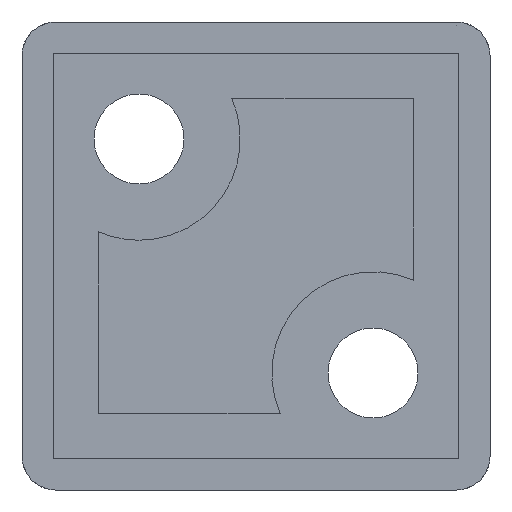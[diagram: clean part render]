
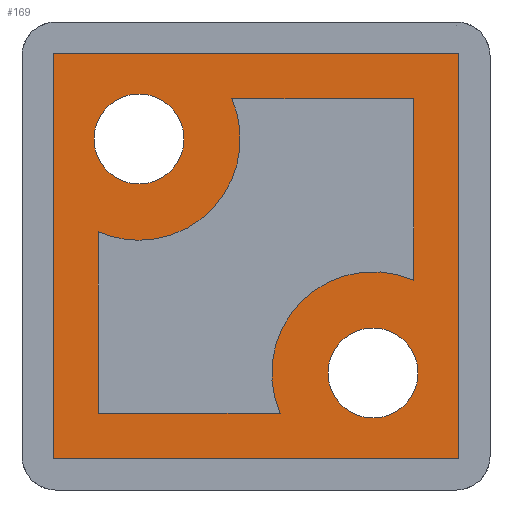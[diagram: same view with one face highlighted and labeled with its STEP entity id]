
A CAD part, front view. The second image highlights one B-rep face of the part: STEP entity #169.
In plain terms, the highlighted planar face has unit normal (0, -1, 0).
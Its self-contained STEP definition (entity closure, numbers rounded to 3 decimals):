
#1 = EDGE_CURVE ( 'NONE', #38, #571, #34, .T. ) ;
#7 = VECTOR ( 'NONE', #140, 1000. ) ;
#9 = EDGE_CURVE ( 'NONE', #414, #1134, #280, .T. ) ;
#15 = CIRCLE ( 'NONE', #915, 4.5 ) ;
#18 = CARTESIAN_POINT ( 'NONE',  ( -1.076, 0., 7. ) ) ;
#27 = CARTESIAN_POINT ( 'NONE',  ( 1.076, 0., -7. ) ) ;
#32 = VECTOR ( 'NONE', #43, 1000. ) ;
#34 = CIRCLE ( 'NONE', #228, 4.5 ) ;
#38 = VERTEX_POINT ( 'NONE', #18 ) ;
#40 = DIRECTION ( 'NONE',  ( 0., 0., -1. ) ) ;
#43 = DIRECTION ( 'NONE',  ( 0., 0., -1. ) ) ;
#46 = CARTESIAN_POINT ( 'NONE',  ( -7., 0., 1.076 ) ) ;
#52 = ORIENTED_EDGE ( 'NONE', *, *, #481, .T. ) ;
#62 = CARTESIAN_POINT ( 'NONE',  ( -5.2, 0., 0.7 ) ) ;
#67 = EDGE_LOOP ( 'NONE', ( #1154, #754 ) ) ;
#68 = CARTESIAN_POINT ( 'NONE',  ( 5.2, 0., -5.2 ) ) ;
#69 = ORIENTED_EDGE ( 'NONE', *, *, #1, .F. ) ;
#82 = AXIS2_PLACEMENT_3D ( 'NONE', #1205, #471, #1037 ) ;
#84 = DIRECTION ( 'NONE',  ( 1., 0., 0. ) ) ;
#90 = EDGE_CURVE ( 'NONE', #610, #708, #658, .T. ) ;
#91 = FACE_OUTER_BOUND ( 'NONE', #773, .T. ) ;
#97 = VERTEX_POINT ( 'NONE', #486 ) ;
#100 = CARTESIAN_POINT ( 'NONE',  ( 7., 0., -1.076 ) ) ;
#104 = ORIENTED_EDGE ( 'NONE', *, *, #927, .F. ) ;
#112 = AXIS2_PLACEMENT_3D ( 'NONE', #151, #831, #240 ) ;
#116 = FACE_BOUND ( 'NONE', #67, .T. ) ;
#140 = DIRECTION ( 'NONE',  ( 1., 0., 0. ) ) ;
#151 = CARTESIAN_POINT ( 'NONE',  ( -5.2, 0., 5.2 ) ) ;
#165 = EDGE_CURVE ( 'NONE', #706, #414, #862, .T. ) ;
#169 = ADVANCED_FACE ( 'NONE', ( #1063, #116, #638, #91 ), #276, .F. ) ;
#198 = DIRECTION ( 'NONE',  ( 0., 0., 1. ) ) ;
#218 = DIRECTION ( 'NONE',  ( 0., 1., 0. ) ) ;
#228 = AXIS2_PLACEMENT_3D ( 'NONE', #551, #748, #247 ) ;
#233 = CARTESIAN_POINT ( 'NONE',  ( 7., 0., 7. ) ) ;
#236 = VERTEX_POINT ( 'NONE', #1030 ) ;
#240 = DIRECTION ( 'NONE',  ( 0., 0., 1. ) ) ;
#247 = DIRECTION ( 'NONE',  ( 0., 0., -1. ) ) ;
#254 = DIRECTION ( 'NONE',  ( 0., 0., -1. ) ) ;
#269 = VECTOR ( 'NONE', #932, 1000. ) ;
#276 = PLANE ( 'NONE',  #82 ) ;
#279 = LINE ( 'NONE', #46, #32 ) ;
#280 = LINE ( 'NONE', #468, #7 ) ;
#296 = CARTESIAN_POINT ( 'NONE',  ( 5.2, 0., -5.2 ) ) ;
#309 = CARTESIAN_POINT ( 'NONE',  ( -5.2, 0., 5.2 ) ) ;
#310 = EDGE_CURVE ( 'NONE', #708, #38, #906, .T. ) ;
#317 = ORIENTED_EDGE ( 'NONE', *, *, #310, .F. ) ;
#325 = DIRECTION ( 'NONE',  ( 0., 1., 0. ) ) ;
#338 = VECTOR ( 'NONE', #1040, 1000. ) ;
#341 = DIRECTION ( 'NONE',  ( 0., 1., 0. ) ) ;
#348 = VERTEX_POINT ( 'NONE', #818 ) ;
#361 = CARTESIAN_POINT ( 'NONE',  ( -7., 0., -7. ) ) ;
#376 = CARTESIAN_POINT ( 'NONE',  ( -9., 0., 10.4 ) ) ;
#388 = EDGE_CURVE ( 'NONE', #706, #1100, #1106, .T. ) ;
#392 = AXIS2_PLACEMENT_3D ( 'NONE', #68, #651, #254 ) ;
#403 = DIRECTION ( 'NONE',  ( 0., 1., 0. ) ) ;
#408 = EDGE_CURVE ( 'NONE', #1139, #610, #1051, .T. ) ;
#411 = ORIENTED_EDGE ( 'NONE', *, *, #408, .F. ) ;
#414 = VERTEX_POINT ( 'NONE', #849 ) ;
#416 = DIRECTION ( 'NONE',  ( 0., 0., 1. ) ) ;
#425 = DIRECTION ( 'NONE',  ( 0., 0., 1. ) ) ;
#460 = VERTEX_POINT ( 'NONE', #731 ) ;
#468 = CARTESIAN_POINT ( 'NONE',  ( -10.4, 0., -9. ) ) ;
#470 = CIRCLE ( 'NONE', #769, 2. ) ;
#471 = DIRECTION ( 'NONE',  ( 0., 1., 0. ) ) ;
#481 = EDGE_CURVE ( 'NONE', #236, #97, #494, .T. ) ;
#486 = CARTESIAN_POINT ( 'NONE',  ( 5.2, 0., -3.2 ) ) ;
#494 = CIRCLE ( 'NONE', #727, 2. ) ;
#520 = EDGE_CURVE ( 'NONE', #571, #460, #15, .T. ) ;
#548 = EDGE_CURVE ( 'NONE', #1100, #1134, #970, .T. ) ;
#549 = VERTEX_POINT ( 'NONE', #995 ) ;
#551 = CARTESIAN_POINT ( 'NONE',  ( -5.2, 0., 5.2 ) ) ;
#571 = VERTEX_POINT ( 'NONE', #62 ) ;
#584 = ORIENTED_EDGE ( 'NONE', *, *, #520, .F. ) ;
#610 = VERTEX_POINT ( 'NONE', #1010 ) ;
#618 = EDGE_CURVE ( 'NONE', #348, #1165, #1054, .T. ) ;
#624 = DIRECTION ( 'NONE',  ( 0., 0., -1. ) ) ;
#638 = FACE_BOUND ( 'NONE', #701, .T. ) ;
#651 = DIRECTION ( 'NONE',  ( 0., 1., 0. ) ) ;
#655 = CARTESIAN_POINT ( 'NONE',  ( -9., 0., 9. ) ) ;
#658 = LINE ( 'NONE', #100, #939 ) ;
#671 = EDGE_CURVE ( 'NONE', #549, #1139, #1006, .T. ) ;
#683 = ORIENTED_EDGE ( 'NONE', *, *, #165, .T. ) ;
#701 = EDGE_LOOP ( 'NONE', ( #899, #52 ) ) ;
#706 = VERTEX_POINT ( 'NONE', #655 ) ;
#708 = VERTEX_POINT ( 'NONE', #233 ) ;
#726 = ORIENTED_EDGE ( 'NONE', *, *, #548, .F. ) ;
#727 = AXIS2_PLACEMENT_3D ( 'NONE', #1081, #325, #1000 ) ;
#731 = CARTESIAN_POINT ( 'NONE',  ( -7., 0., 1.076 ) ) ;
#739 = EDGE_CURVE ( 'NONE', #1165, #348, #470, .T. ) ;
#748 = DIRECTION ( 'NONE',  ( 0., 1., 0. ) ) ;
#753 = CARTESIAN_POINT ( 'NONE',  ( -10.4, 0., 9. ) ) ;
#754 = ORIENTED_EDGE ( 'NONE', *, *, #739, .T. ) ;
#769 = AXIS2_PLACEMENT_3D ( 'NONE', #309, #403, #416 ) ;
#773 = EDGE_LOOP ( 'NONE', ( #683, #900, #726, #1121 ) ) ;
#784 = AXIS2_PLACEMENT_3D ( 'NONE', #296, #341, #425 ) ;
#808 = CARTESIAN_POINT ( 'NONE',  ( 9., 0., 9. ) ) ;
#818 = CARTESIAN_POINT ( 'NONE',  ( -5.2, 0., 7.2 ) ) ;
#822 = CARTESIAN_POINT ( 'NONE',  ( -5.2, 0., 5.2 ) ) ;
#823 = VECTOR ( 'NONE', #84, 1000. ) ;
#831 = DIRECTION ( 'NONE',  ( 0., 1., 0. ) ) ;
#849 = CARTESIAN_POINT ( 'NONE',  ( -9., 0., -9. ) ) ;
#862 = LINE ( 'NONE', #376, #338 ) ;
#865 = CARTESIAN_POINT ( 'NONE',  ( -5.2, 0., 3.2 ) ) ;
#882 = VECTOR ( 'NONE', #40, 1000. ) ;
#894 = CARTESIAN_POINT ( 'NONE',  ( 9., 0., -9. ) ) ;
#899 = ORIENTED_EDGE ( 'NONE', *, *, #935, .T. ) ;
#900 = ORIENTED_EDGE ( 'NONE', *, *, #9, .T. ) ;
#906 = LINE ( 'NONE', #1064, #1128 ) ;
#915 = AXIS2_PLACEMENT_3D ( 'NONE', #822, #218, #624 ) ;
#927 = EDGE_CURVE ( 'NONE', #460, #549, #279, .T. ) ;
#932 = DIRECTION ( 'NONE',  ( 1., 0., 0. ) ) ;
#935 = EDGE_CURVE ( 'NONE', #97, #236, #1067, .T. ) ;
#939 = VECTOR ( 'NONE', #198, 1000. ) ;
#968 = ORIENTED_EDGE ( 'NONE', *, *, #90, .F. ) ;
#970 = LINE ( 'NONE', #1073, #882 ) ;
#980 = DIRECTION ( 'NONE',  ( -1., 0., 0. ) ) ;
#995 = CARTESIAN_POINT ( 'NONE',  ( -7., 0., -7. ) ) ;
#1000 = DIRECTION ( 'NONE',  ( 0., 0., 1. ) ) ;
#1006 = LINE ( 'NONE', #361, #269 ) ;
#1010 = CARTESIAN_POINT ( 'NONE',  ( 7., 0., -1.076 ) ) ;
#1030 = CARTESIAN_POINT ( 'NONE',  ( 5.2, 0., -7.2 ) ) ;
#1037 = DIRECTION ( 'NONE',  ( 0., 0., 1. ) ) ;
#1040 = DIRECTION ( 'NONE',  ( 0., 0., -1. ) ) ;
#1051 = CIRCLE ( 'NONE', #392, 4.5 ) ;
#1054 = CIRCLE ( 'NONE', #112, 2. ) ;
#1063 = FACE_BOUND ( 'NONE', #1089, .T. ) ;
#1064 = CARTESIAN_POINT ( 'NONE',  ( 7., 0., 7. ) ) ;
#1067 = CIRCLE ( 'NONE', #784, 2. ) ;
#1073 = CARTESIAN_POINT ( 'NONE',  ( 9., 0., 10.4 ) ) ;
#1081 = CARTESIAN_POINT ( 'NONE',  ( 5.2, 0., -5.2 ) ) ;
#1089 = EDGE_LOOP ( 'NONE', ( #968, #411, #1180, #104, #584, #69, #317 ) ) ;
#1100 = VERTEX_POINT ( 'NONE', #808 ) ;
#1106 = LINE ( 'NONE', #753, #823 ) ;
#1121 = ORIENTED_EDGE ( 'NONE', *, *, #388, .F. ) ;
#1128 = VECTOR ( 'NONE', #980, 1000. ) ;
#1134 = VERTEX_POINT ( 'NONE', #894 ) ;
#1139 = VERTEX_POINT ( 'NONE', #27 ) ;
#1154 = ORIENTED_EDGE ( 'NONE', *, *, #618, .T. ) ;
#1165 = VERTEX_POINT ( 'NONE', #865 ) ;
#1180 = ORIENTED_EDGE ( 'NONE', *, *, #671, .F. ) ;
#1205 = CARTESIAN_POINT ( 'NONE',  ( -9., 0., 10.4 ) ) ;
